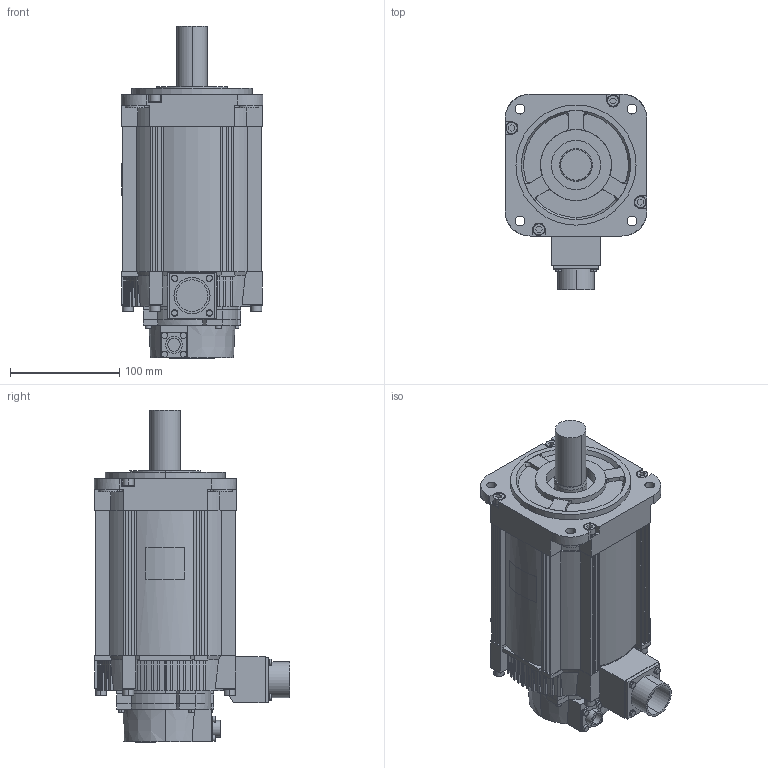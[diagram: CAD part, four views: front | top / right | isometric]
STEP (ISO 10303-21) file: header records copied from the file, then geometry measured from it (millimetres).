
FILE_DESCRIPTION (( 'STEP AP203' ), '1' );
FILE_NAME ('sgm7a_40a6a21.STEP', '2016-11-12T04:47:36', ( '匠エンジニアリング山之内' ), ( 'TAKUMI-Engniaring' ), 'SwSTEP 2.0', 'SolidWorks 2006303', '' );
FILE_SCHEMA (( 'CONFIG_CONTROL_DESIGN' ));
Length unit declared in the file: millimetre
Products named in the file (1): sgm7a_40a6a21
Bounding box: 130 x 179 x 304.1 mm (x, y, z)
Volume: 3029304.6 mm3; surface area: 201531.9 mm2
Topology: 1 solids, 1 shells, 710 faces, 1881 edges, 1235 vertices
Faces by surface type: plane 476, cylinder 208, cone 20, bspline 6
Entity records: 22521 total; most frequent: CARTESIAN_POINT 4556, ORIENTED_EDGE 3762, DIRECTION 3707, EDGE_CURVE 1881, AXIS2_PLACEMENT_3D 1263, VERTEX_POINT 1235, LINE 1181, VECTOR 1181
